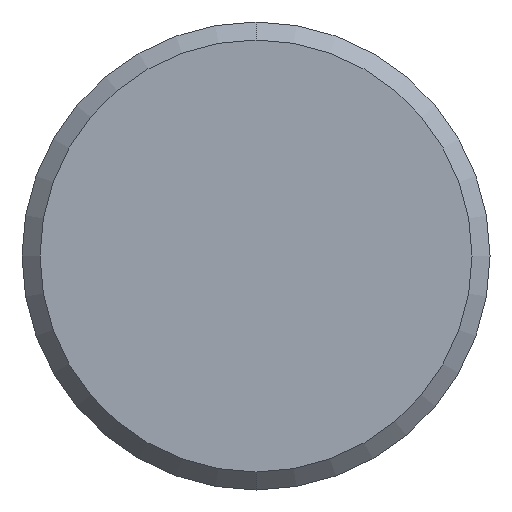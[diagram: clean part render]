
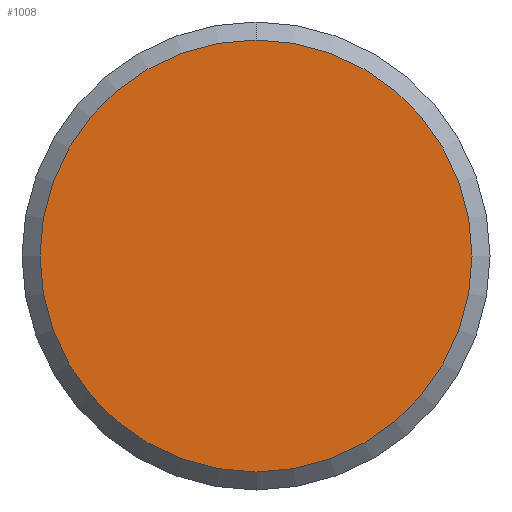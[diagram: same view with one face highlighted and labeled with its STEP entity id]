
A CAD part, front view. The second image highlights one B-rep face of the part: STEP entity #1008.
In plain terms, the highlighted planar face has unit normal (0, -1, 0).
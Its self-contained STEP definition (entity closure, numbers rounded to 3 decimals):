
#67 = DIRECTION ( 'NONE',  ( 0., 0., 1. ) ) ;
#129 = VERTEX_POINT ( 'NONE', #1308 ) ;
#136 = CARTESIAN_POINT ( 'NONE',  ( 0., 0., -12. ) ) ;
#151 = AXIS2_PLACEMENT_3D ( 'NONE', #330, #578, #794 ) ;
#174 = PLANE ( 'NONE',  #1290 ) ;
#188 = DIRECTION ( 'NONE',  ( 0., 1., 0. ) ) ;
#270 = CIRCLE ( 'NONE', #410, 12. ) ;
#330 = CARTESIAN_POINT ( 'NONE',  ( 0., 0., 0. ) ) ;
#334 = FACE_OUTER_BOUND ( 'NONE', #1152, .T. ) ;
#410 = AXIS2_PLACEMENT_3D ( 'NONE', #886, #188, #67 ) ;
#436 = ORIENTED_EDGE ( 'NONE', *, *, #617, .F. ) ;
#505 = EDGE_CURVE ( 'NONE', #129, #776, #270, .T. ) ;
#578 = DIRECTION ( 'NONE',  ( 0., 1., 0. ) ) ;
#617 = EDGE_CURVE ( 'NONE', #776, #129, #1057, .T. ) ;
#633 = DIRECTION ( 'NONE',  ( 0., 0., 1. ) ) ;
#639 = CARTESIAN_POINT ( 'NONE',  ( 0., 0., 0. ) ) ;
#776 = VERTEX_POINT ( 'NONE', #136 ) ;
#794 = DIRECTION ( 'NONE',  ( 0., 0., 1. ) ) ;
#886 = CARTESIAN_POINT ( 'NONE',  ( 0., 0., 0. ) ) ;
#918 = ORIENTED_EDGE ( 'NONE', *, *, #505, .F. ) ;
#976 = DIRECTION ( 'NONE',  ( 0., 1., 0. ) ) ;
#1008 = ADVANCED_FACE ( 'NONE', ( #334 ), #174, .F. ) ;
#1057 = CIRCLE ( 'NONE', #151, 12. ) ;
#1152 = EDGE_LOOP ( 'NONE', ( #436, #918 ) ) ;
#1290 = AXIS2_PLACEMENT_3D ( 'NONE', #639, #976, #633 ) ;
#1308 = CARTESIAN_POINT ( 'NONE',  ( 0., 0., 12. ) ) ;
